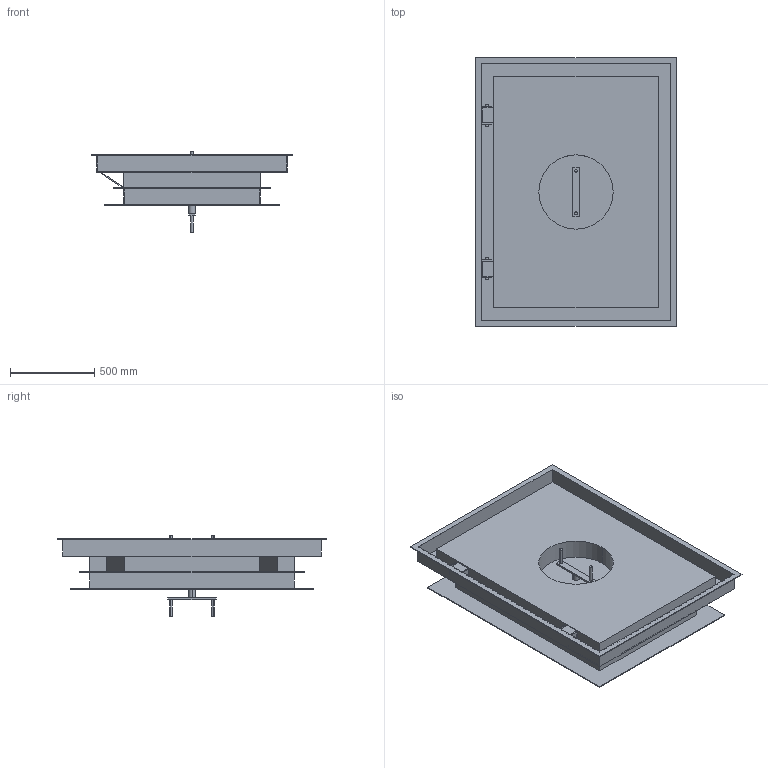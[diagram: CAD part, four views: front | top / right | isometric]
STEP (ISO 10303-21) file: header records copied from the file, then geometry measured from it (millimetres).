
FILE_DESCRIPTION((''),'2;1');
FILE_NAME('52033751','2023-02-24T11:32:28',('ka'),('HUBER SE'),'CREO PARAMETRIC BY PTC INC, 2022162','CREO PARAMETRIC BY PTC INC, 2022162','');
FILE_SCHEMA(('AUTOMOTIVE_DESIGN { 1 0 10303 214 1 1 1 1 }'));
Length unit declared in the file: millimetre
Products named in the file (1): 52033751
Bounding box: 1190 x 1590 x 480 mm (x, y, z)
Volume: 200409477.9 mm3; surface area: 8924630.1 mm2
Topology: 3 solids, 3 shells, 134 faces, 326 edges, 212 vertices
Faces by surface type: plane 112, cylinder 22
Entity records: 5018 total; most frequent: CARTESIAN_POINT 674, ORIENTED_EDGE 652, DIRECTION 638, EDGE_CURVE 326, VECTOR 282, LINE 282, VERTEX_POINT 212, AXIS2_PLACEMENT_3D 178
